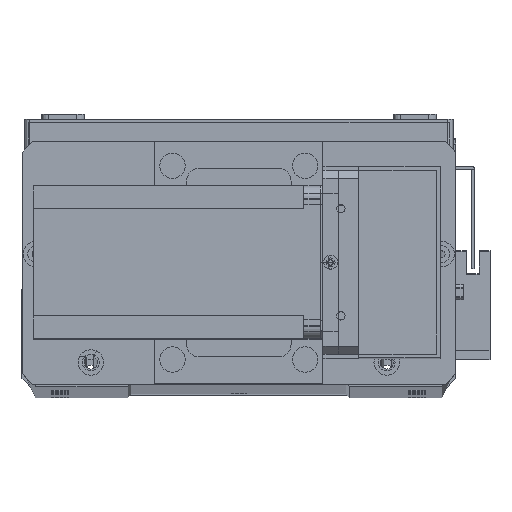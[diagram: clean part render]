
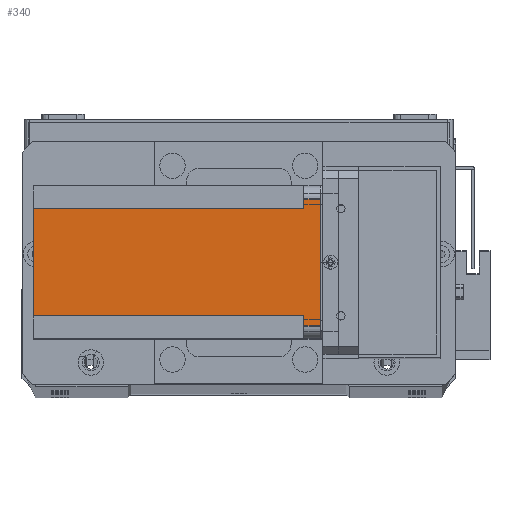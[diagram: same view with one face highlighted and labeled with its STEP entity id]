
A CAD part, top view. The second image highlights one B-rep face of the part: STEP entity #340.
In plain terms, the highlighted planar face has unit normal (0, 0, 1) as drawn and (-1, 0, 0) by its records, which use the part's own axes.
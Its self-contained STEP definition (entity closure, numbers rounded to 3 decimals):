
#121 = VECTOR ( 'NONE', #12288, 1000. ) ;
#182 = EDGE_CURVE ( 'NONE', #9039, #6904, #26079, .T. ) ;
#293 = EDGE_CURVE ( 'NONE', #30464, #6904, #12745, .T. ) ;
#340 = ADVANCED_FACE ( 'NONE', ( #6251 ), #15935, .T. ) ;
#502 = EDGE_CURVE ( 'NONE', #2114, #30464, #23882, .T. ) ;
#649 = EDGE_CURVE ( 'NONE', #2114, #24311, #7171, .T. ) ;
#870 = EDGE_CURVE ( 'NONE', #17263, #24311, #3827, .T. ) ;
#885 = CARTESIAN_POINT ( 'NONE',  ( 0., 0., -112.5 ) ) ;
#891 = CARTESIAN_POINT ( 'NONE',  ( 0., 55., -6.5 ) ) ;
#1026 = VECTOR ( 'NONE', #21299, 1000. ) ;
#1035 = CARTESIAN_POINT ( 'NONE',  ( 0., 0., -6.5 ) ) ;
#1157 = DIRECTION ( 'NONE',  ( 0., 1., 0. ) ) ;
#1971 = VECTOR ( 'NONE', #24870, 1000. ) ;
#2114 = VERTEX_POINT ( 'NONE', #22576 ) ;
#2171 = ORIENTED_EDGE ( 'NONE', *, *, #870, .F. ) ;
#3827 = LINE ( 'NONE', #31123, #22639 ) ;
#4264 = VERTEX_POINT ( 'NONE', #27122 ) ;
#5334 = AXIS2_PLACEMENT_3D ( 'NONE', #885, #31522, #15644 ) ;
#6251 = FACE_OUTER_BOUND ( 'NONE', #20847, .T. ) ;
#6904 = VERTEX_POINT ( 'NONE', #891 ) ;
#6955 = VECTOR ( 'NONE', #1157, 1000. ) ;
#7171 = LINE ( 'NONE', #16077, #121 ) ;
#9039 = VERTEX_POINT ( 'NONE', #15473 ) ;
#9509 = CARTESIAN_POINT ( 'NONE',  ( 0., 55., -112.5 ) ) ;
#9646 = CARTESIAN_POINT ( 'NONE',  ( 0., 5., -112.5 ) ) ;
#10292 = CARTESIAN_POINT ( 'NONE',  ( 0., 0., 0. ) ) ;
#12288 = DIRECTION ( 'NONE',  ( 0., -1., 0. ) ) ;
#12745 = LINE ( 'NONE', #25834, #1026 ) ;
#12989 = DIRECTION ( 'NONE',  ( 0., 0., -1. ) ) ;
#13333 = ORIENTED_EDGE ( 'NONE', *, *, #649, .T. ) ;
#14713 = ORIENTED_EDGE ( 'NONE', *, *, #33172, .F. ) ;
#15473 = CARTESIAN_POINT ( 'NONE',  ( 0., 55., 0. ) ) ;
#15644 = DIRECTION ( 'NONE',  ( 0., -1., 0. ) ) ;
#15935 = PLANE ( 'NONE',  #5334 ) ;
#16077 = CARTESIAN_POINT ( 'NONE',  ( 0., 0., -112.5 ) ) ;
#16995 = VECTOR ( 'NONE', #31560, 1000. ) ;
#17022 = CARTESIAN_POINT ( 'NONE',  ( 0., 51., -6.5 ) ) ;
#17263 = VERTEX_POINT ( 'NONE', #30850 ) ;
#20326 = LINE ( 'NONE', #1035, #6955 ) ;
#20847 = EDGE_LOOP ( 'NONE', ( #14713, #23374, #22820, #27888, #30135, #27517, #13333, #2171 ) ) ;
#21299 = DIRECTION ( 'NONE',  ( 0., 1., 0. ) ) ;
#22405 = LINE ( 'NONE', #9646, #1971 ) ;
#22576 = CARTESIAN_POINT ( 'NONE',  ( 0., 51., -112.5 ) ) ;
#22639 = VECTOR ( 'NONE', #12989, 1000. ) ;
#22651 = CARTESIAN_POINT ( 'NONE',  ( 0., 5., 0. ) ) ;
#22820 = ORIENTED_EDGE ( 'NONE', *, *, #32657, .F. ) ;
#23374 = ORIENTED_EDGE ( 'NONE', *, *, #33330, .T. ) ;
#23882 = LINE ( 'NONE', #29019, #16995 ) ;
#24311 = VERTEX_POINT ( 'NONE', #28194 ) ;
#24471 = VECTOR ( 'NONE', #28978, 1000. ) ;
#24870 = DIRECTION ( 'NONE',  ( 0., 0., 1. ) ) ;
#25536 = DIRECTION ( 'NONE',  ( 0., -1., 0. ) ) ;
#25834 = CARTESIAN_POINT ( 'NONE',  ( 0., 60., -6.5 ) ) ;
#26079 = LINE ( 'NONE', #9509, #24471 ) ;
#27122 = CARTESIAN_POINT ( 'NONE',  ( 0., 5., -6.5 ) ) ;
#27517 = ORIENTED_EDGE ( 'NONE', *, *, #502, .F. ) ;
#27560 = VERTEX_POINT ( 'NONE', #22651 ) ;
#27658 = VECTOR ( 'NONE', #25536, 1000. ) ;
#27888 = ORIENTED_EDGE ( 'NONE', *, *, #182, .T. ) ;
#28194 = CARTESIAN_POINT ( 'NONE',  ( 0., 9., -112.5 ) ) ;
#28472 = LINE ( 'NONE', #10292, #27658 ) ;
#28978 = DIRECTION ( 'NONE',  ( 0., 0., -1. ) ) ;
#29019 = CARTESIAN_POINT ( 'NONE',  ( 0., 51., -112.5 ) ) ;
#30135 = ORIENTED_EDGE ( 'NONE', *, *, #293, .F. ) ;
#30464 = VERTEX_POINT ( 'NONE', #17022 ) ;
#30850 = CARTESIAN_POINT ( 'NONE',  ( 0., 9., -6.5 ) ) ;
#31123 = CARTESIAN_POINT ( 'NONE',  ( 0., 9., -112.5 ) ) ;
#31522 = DIRECTION ( 'NONE',  ( -1., 0., 0. ) ) ;
#31560 = DIRECTION ( 'NONE',  ( 0., 0., 1. ) ) ;
#32657 = EDGE_CURVE ( 'NONE', #9039, #27560, #28472, .T. ) ;
#33172 = EDGE_CURVE ( 'NONE', #4264, #17263, #20326, .T. ) ;
#33330 = EDGE_CURVE ( 'NONE', #4264, #27560, #22405, .T. ) ;
